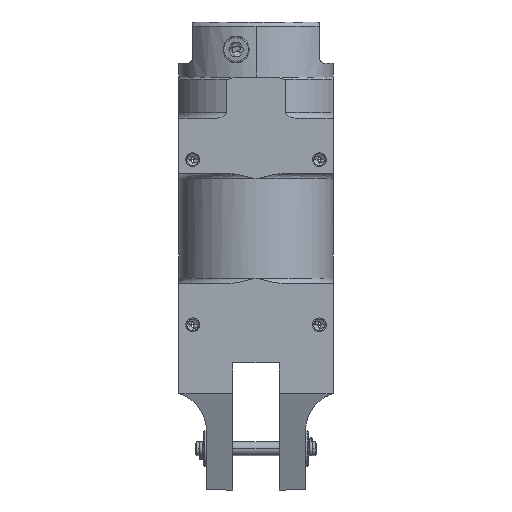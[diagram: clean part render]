
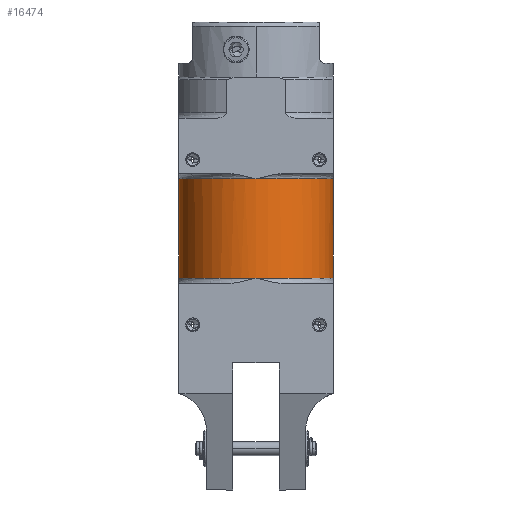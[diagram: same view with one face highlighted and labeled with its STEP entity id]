
A CAD part, front view. The second image highlights one B-rep face of the part: STEP entity #16474.
In plain terms, the highlighted cylindrical face has radius 28 mm (diameter 56 mm), a partial arc.
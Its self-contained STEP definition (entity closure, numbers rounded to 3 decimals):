
#24 = CARTESIAN_POINT ( 'NONE',  ( 94.747, -51.874, -90.207 ) ) ;
#197 = EDGE_CURVE ( 'NONE', #4361, #10042, #23093, .T. ) ;
#508 = DIRECTION ( 'NONE',  ( 0., 0., -1. ) ) ;
#986 = CARTESIAN_POINT ( 'NONE',  ( 130.007, -24.77, -90.207 ) ) ;
#1635 = CARTESIAN_POINT ( 'NONE',  ( 103.839, -52.77, -90.207 ) ) ;
#1771 = CARTESIAN_POINT ( 'NONE',  ( 74.902, -32.03, -90.207 ) ) ;
#1851 = CARTESIAN_POINT ( 'NONE',  ( 100.174, -52.77, -90.207 ) ) ;
#2040 = CARTESIAN_POINT ( 'NONE',  ( 85.605, -52.77, -126.207 ) ) ;
#2428 = CARTESIAN_POINT ( 'NONE',  ( 130.007, -24.77, -126.207 ) ) ;
#3435 = CARTESIAN_POINT ( 'NONE',  ( 109.267, -51.874, -90.207 ) ) ;
#3468 = ORIENTED_EDGE ( 'NONE', *, *, #20263, .F. ) ;
#3575 = CARTESIAN_POINT ( 'NONE',  ( 76.839, -37.178, -90.207 ) ) ;
#4361 = VERTEX_POINT ( 'NONE', #9199 ) ;
#4478 = EDGE_CURVE ( 'NONE', #13323, #12347, #12852, .T. ) ;
#4515 = CARTESIAN_POINT ( 'NONE',  ( 120.51, -45.865, -90.207 ) ) ;
#5255 = CARTESIAN_POINT ( 'NONE',  ( 114.415, -49.937, -90.207 ) ) ;
#5330 = EDGE_CURVE ( 'NONE', #16116, #10042, #9726, .T. ) ;
#5390 = CARTESIAN_POINT ( 'NONE',  ( 79.744, -41.85, -90.207 ) ) ;
#5933 = DIRECTION ( 'NONE',  ( -1., 0., 0. ) ) ;
#6149 = ORIENTED_EDGE ( 'NONE', *, *, #18404, .T. ) ;
#6344 = CARTESIAN_POINT ( 'NONE',  ( 124.27, -41.85, -90.207 ) ) ;
#6468 = FACE_OUTER_BOUND ( 'NONE', #21539, .T. ) ;
#6602 = CARTESIAN_POINT ( 'NONE',  ( 116.039, -49.069, -90.207 ) ) ;
#7101 = CARTESIAN_POINT ( 'NONE',  ( 102.007, -52.77, -126.207 ) ) ;
#7196 = CARTESIAN_POINT ( 'NONE',  ( 83.503, -45.865, -90.207 ) ) ;
#7908 = CARTESIAN_POINT ( 'NONE',  ( 74.007, -24.77, -90.207 ) ) ;
#8138 = CARTESIAN_POINT ( 'NONE',  ( 127.174, -37.178, -90.207 ) ) ;
#8238 = VECTOR ( 'NONE', #20352, 1000. ) ;
#8911 = CARTESIAN_POINT ( 'NONE',  ( 74.007, -26.603, -90.207 ) ) ;
#8986 = CARTESIAN_POINT ( 'NONE',  ( 87.974, -49.069, -90.207 ) ) ;
#9178 = CARTESIAN_POINT ( 'NONE',  ( 74.007, -41.172, -126.207 ) ) ;
#9199 = CARTESIAN_POINT ( 'NONE',  ( 130.007, -24.77, -90.207 ) ) ;
#9590 = EDGE_CURVE ( 'NONE', #13323, #21130, #9859, .T. ) ;
#9726 =( BOUNDED_CURVE ( )  B_SPLINE_CURVE ( 3, ( #16542, #11205, #11278, #13080 ),
 .UNSPECIFIED., .F., .T. ) 
 B_SPLINE_CURVE_WITH_KNOTS ( ( 4, 4 ),
 ( 3., 4. ),
 .UNSPECIFIED. ) 
 CURVE ( )  GEOMETRIC_REPRESENTATION_ITEM ( )  RATIONAL_B_SPLINE_CURVE ( ( 0.996, 0.802, 0.802, 0.996 ) ) 
 REPRESENTATION_ITEM ( '' )  );
#9859 = B_SPLINE_CURVE_WITH_KNOTS ( 'NONE', 3,
 ( #12217, #8911, #12526, #1771, #14335, #3575, #16153, #5390, #17956, #7196, #19765, #8986, #21545, #10809, #24, #12612, #1851, #14417 ),
 .UNSPECIFIED., .F., .F.,
 ( 4, 2, 2, 2, 2, 2, 2, 2, 4 ),
 ( 0., 0.125, 0.25, 0.375, 0.5, 0.625, 0.75, 0.875, 1. ),
 .UNSPECIFIED. ) ;
#9937 = CARTESIAN_POINT ( 'NONE',  ( 129.111, -32.03, -90.207 ) ) ;
#10042 = VERTEX_POINT ( 'NONE', #2428 ) ;
#10163 = ORIENTED_EDGE ( 'NONE', *, *, #5330, .F. ) ;
#10644 = CYLINDRICAL_SURFACE ( 'NONE', #18609, 28. ) ;
#10809 = CARTESIAN_POINT ( 'NONE',  ( 92.985, -51.34, -90.207 ) ) ;
#11087 = CARTESIAN_POINT ( 'NONE',  ( 74.007, -24.77, -90.207 ) ) ;
#11164 = VECTOR ( 'NONE', #11171, 1000. ) ;
#11171 = DIRECTION ( 'NONE',  ( 0., 0., -1. ) ) ;
#11205 = CARTESIAN_POINT ( 'NONE',  ( 118.409, -52.77, -126.207 ) ) ;
#11278 = CARTESIAN_POINT ( 'NONE',  ( 130.007, -41.172, -126.207 ) ) ;
#11760 = CARTESIAN_POINT ( 'NONE',  ( 130.007, -26.603, -90.207 ) ) ;
#12217 = CARTESIAN_POINT ( 'NONE',  ( 74.007, -24.77, -90.207 ) ) ;
#12347 = VERTEX_POINT ( 'NONE', #16705 ) ;
#12526 = CARTESIAN_POINT ( 'NONE',  ( 74.187, -28.435, -90.207 ) ) ;
#12612 = CARTESIAN_POINT ( 'NONE',  ( 98.341, -52.589, -90.207 ) ) ;
#12852 = LINE ( 'NONE', #11087, #11164 ) ;
#13080 = CARTESIAN_POINT ( 'NONE',  ( 130.007, -24.77, -126.207 ) ) ;
#13323 = VERTEX_POINT ( 'NONE', #7908 ) ;
#13828 =( BOUNDED_CURVE ( )  B_SPLINE_CURVE ( 3, ( #21731, #9178, #2040, #14601 ),
 .UNSPECIFIED., .F., .F. ) 
 B_SPLINE_CURVE_WITH_KNOTS ( ( 4, 4 ),
 ( 3., 4. ),
 .UNSPECIFIED. ) 
 CURVE ( )  GEOMETRIC_REPRESENTATION_ITEM ( )  RATIONAL_B_SPLINE_CURVE ( ( 0.996, 0.802, 0.802, 0.996 ) ) 
 REPRESENTATION_ITEM ( '' )  );
#14192 = CARTESIAN_POINT ( 'NONE',  ( 105.672, -52.589, -90.207 ) ) ;
#14335 = CARTESIAN_POINT ( 'NONE',  ( 75.437, -33.792, -90.207 ) ) ;
#14417 = CARTESIAN_POINT ( 'NONE',  ( 102.007, -52.77, -90.207 ) ) ;
#14601 = CARTESIAN_POINT ( 'NONE',  ( 102.007, -52.77, -126.207 ) ) ;
#14664 = ORIENTED_EDGE ( 'NONE', *, *, #197, .T. ) ;
#14892 = CARTESIAN_POINT ( 'NONE',  ( 102.007, -24.77, -90.207 ) ) ;
#15295 = CARTESIAN_POINT ( 'NONE',  ( 119.086, -47.033, -90.207 ) ) ;
#16014 = CARTESIAN_POINT ( 'NONE',  ( 111.029, -51.34, -90.207 ) ) ;
#16078 = ORIENTED_EDGE ( 'NONE', *, *, #4478, .F. ) ;
#16116 = VERTEX_POINT ( 'NONE', #7101 ) ;
#16153 = CARTESIAN_POINT ( 'NONE',  ( 77.707, -38.802, -90.207 ) ) ;
#16474 = ADVANCED_FACE ( 'NONE', ( #6468 ), #10644, .F. ) ;
#16542 = CARTESIAN_POINT ( 'NONE',  ( 102.007, -52.77, -126.207 ) ) ;
#16705 = CARTESIAN_POINT ( 'NONE',  ( 74.007, -24.77, -126.207 ) ) ;
#17096 = CARTESIAN_POINT ( 'NONE',  ( 123.101, -43.273, -90.207 ) ) ;
#17956 = CARTESIAN_POINT ( 'NONE',  ( 80.912, -43.273, -90.207 ) ) ;
#18404 = EDGE_CURVE ( 'NONE', #21130, #4361, #18464, .T. ) ;
#18464 = B_SPLINE_CURVE_WITH_KNOTS ( 'NONE', 3,
 ( #23131, #1635, #14192, #3435, #16014, #5255, #6602, #15295, #4515, #17096, #6344, #18893, #8138, #20696, #9937, #22482, #11760, #986 ),
 .UNSPECIFIED., .F., .F.,
 ( 4, 2, 2, 2, 2, 2, 2, 2, 4 ),
 ( 0., 0.125, 0.25, 0.375, 0.5, 0.625, 0.75, 0.875, 1. ),
 .UNSPECIFIED. ) ;
#18609 = AXIS2_PLACEMENT_3D ( 'NONE', #14892, #508, #5933 ) ;
#18893 = CARTESIAN_POINT ( 'NONE',  ( 126.306, -38.802, -90.207 ) ) ;
#18950 = ORIENTED_EDGE ( 'NONE', *, *, #9590, .T. ) ;
#19765 = CARTESIAN_POINT ( 'NONE',  ( 84.927, -47.033, -90.207 ) ) ;
#19979 = CARTESIAN_POINT ( 'NONE',  ( 102.007, -52.77, -90.207 ) ) ;
#20263 = EDGE_CURVE ( 'NONE', #12347, #16116, #13828, .T. ) ;
#20352 = DIRECTION ( 'NONE',  ( 0., 0., -1. ) ) ;
#20696 = CARTESIAN_POINT ( 'NONE',  ( 128.577, -33.792, -90.207 ) ) ;
#21130 = VERTEX_POINT ( 'NONE', #19979 ) ;
#21539 = EDGE_LOOP ( 'NONE', ( #6149, #14664, #10163, #3468, #16078, #18950 ) ) ;
#21545 = CARTESIAN_POINT ( 'NONE',  ( 89.598, -49.937, -90.207 ) ) ;
#21731 = CARTESIAN_POINT ( 'NONE',  ( 74.007, -24.77, -126.207 ) ) ;
#22153 = CARTESIAN_POINT ( 'NONE',  ( 130.007, -24.77, -90.207 ) ) ;
#22482 = CARTESIAN_POINT ( 'NONE',  ( 129.826, -28.435, -90.207 ) ) ;
#23093 = LINE ( 'NONE', #22153, #8238 ) ;
#23131 = CARTESIAN_POINT ( 'NONE',  ( 102.007, -52.77, -90.207 ) ) ;
